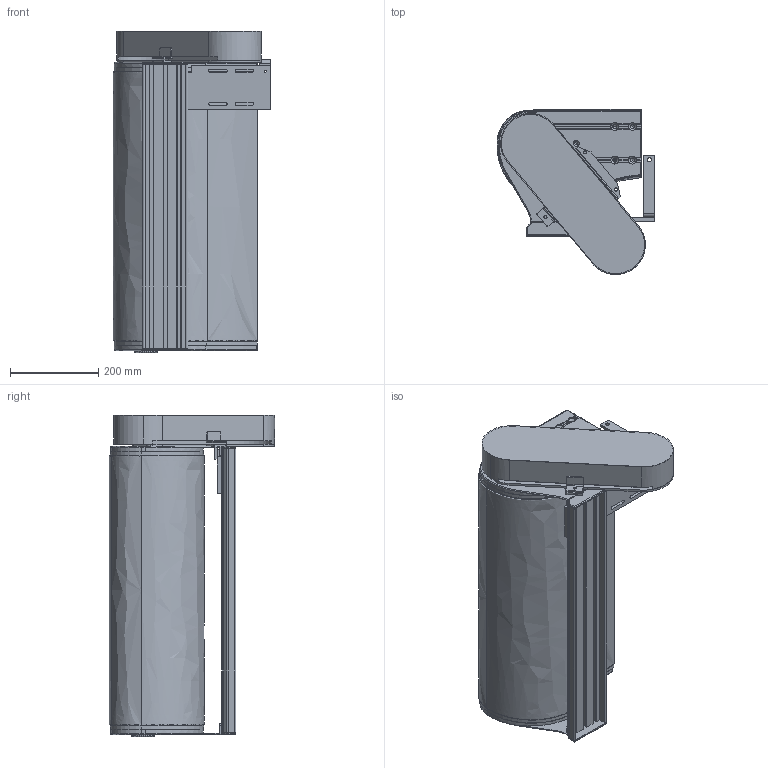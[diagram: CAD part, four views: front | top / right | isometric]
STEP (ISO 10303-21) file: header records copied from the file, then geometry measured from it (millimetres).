
FILE_DESCRIPTION (( 'STEP AP214' ), '1' );
FILE_NAME ('F2 2400 MSG20.step', '2017-04-05T07:33:27', ( '' ), ( '' ), 'SwSTEP 2.0', 'SolidWorks 2015', '' );
FILE_SCHEMA (( 'AUTOMOTIVE_DESIGN' ));
Length unit declared in the file: millimetre
Products named in the file (1): F2 2400 MSG20
Bounding box: 357.48 x 374.02 x 727.55 mm (x, y, z)
Volume: 39711273.5 mm3; surface area: 1431214.2 mm2
Topology: 8 solids, 8 shells, 819 faces, 2144 edges, 1317 vertices
Faces by surface type: cylinder 362, plane 267, torus 122, cone 40, bspline 28
Entity records: 29164 total; most frequent: CARTESIAN_POINT 7192, DIRECTION 4325, ORIENTED_EDGE 4232, EDGE_CURVE 2116, AXIS2_PLACEMENT_3D 1645, VERTEX_POINT 1317, VECTOR 1035, LINE 1035
